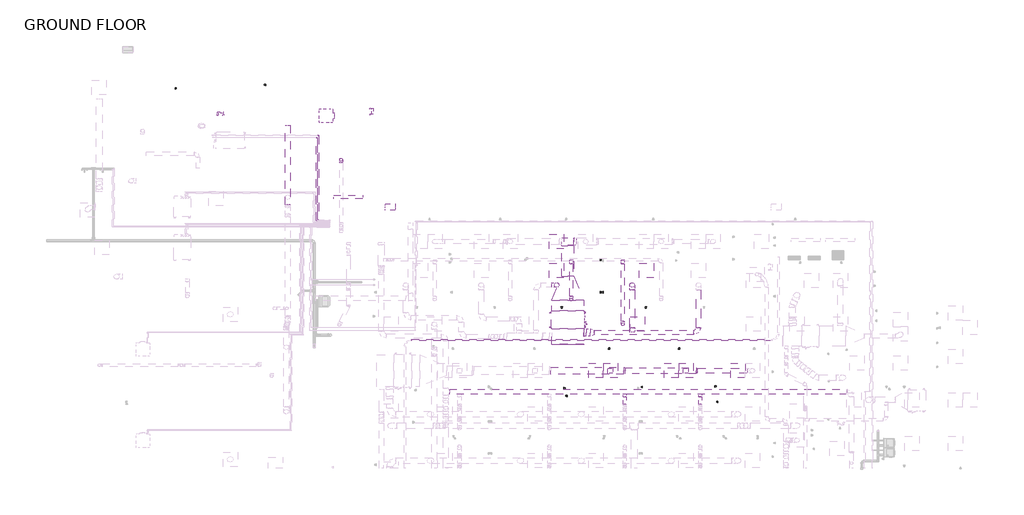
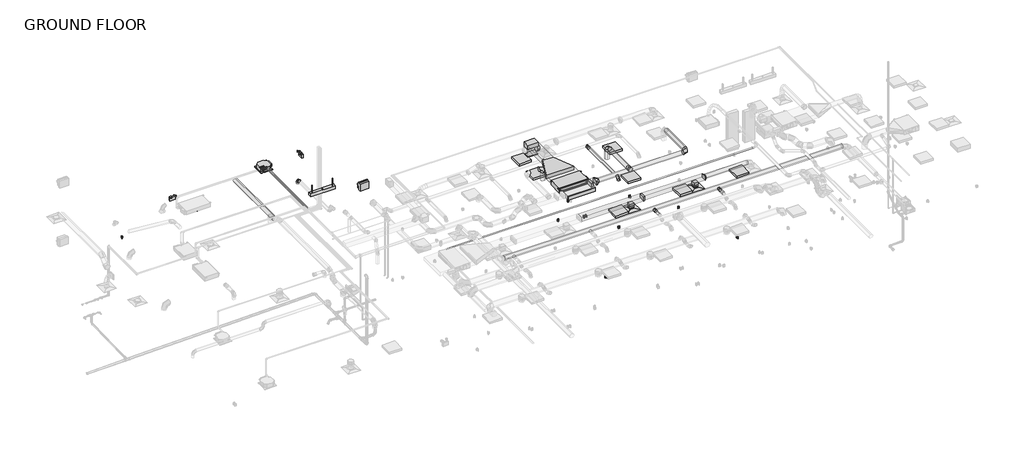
# One storey, part 18 of 22: 25 duct fittings, 24 duct segments, 11 light fixtures, 8 proxies, 4 electric appliances, 4 switching devices, 2 air terminals, 2 pipe fittings, 3 other elements.
"""IFC4 building model written with IfcOpenShell, lengths in millimetres."""

from ifc_helpers import new_model, si_unit, point, frame, frame_2d, origin, place, context, project, spatial, polyline, circle_curve, trimmed, segment, composite_curve, outline, extrude, transform, mapped, element, save
from components import air_terminal_e9020785, mechanical_equipment_d478180c, mechanical_equipment_2d84379e, duplex_receptacle_countertop_10251bba, rectangular_elbow_mitered_transition_standard_1af59134, rectangular_endcap_standard_3ad2bc23, rectangular_endcap_standard_fc39317d, rectangular_takeoff_standard_68f80ab3, rectangular_takeoff_standard_d07ea574, rectangular_transition_angle_45_degree_5314cfe0, rectangular_transition_angle_45_degree_4bc87dcf, rectangular_transition_angle_45_degree_1d311e81, rectangular_to_round_transition_angle_45_degree_8ccbb142, rectangular_to_round_transition_angle_45_degree_e9430680, rectangular_to_round_transition_angle_45_degree_5a025447, round_elbow_1_d_a253342a, round_elbow_1_d_c80420c1, round_takeoff_standard_272bb003, round_takeoff_standard_aff246af, round_takeoff_standard_5e8805d5, round_takeoff_standard_17dc06e3, telephone_outlet_data_plain_18c24199, emergency_wall_light_120v_37438f40, suspended_fluorescent_strip_non_hosted_strip_light_1x4_120v_5197bc21, troffer_corner_insert_2x2_3lamp_e67c7f8f, wall_pack_light_exterior_120v_ab60a804, elbow_generic_standard_738589b0, elbow_generic_standard_371413ad

model = new_model("IFC4")

# Units and contexts
model_context = context("Model", 3, world=origin())
ifc_project = project(units=[si_unit("LENGTHUNIT", "METRE", prefix="MILLI")], contexts=[model_context])

# Site, building, storey
site = spatial("IfcSite", under=ifc_project)
building = spatial("IfcBuilding", under=site)
storey = spatial("IfcBuildingStorey", under=building, Name="GROUND FLOOR", Elevation=30480.0)

# Air terminals
placement = place(None, origin())
air_terminal_shape = air_terminal_e9020785(model_context)
element("IfcAirTerminal", 1, ObjectType="Supply Diffuser - Rectangular Face Round Neck - Hosted : 24\"x24\" Face 8\" Neck - Hosted", at=placement, inside=storey, context=model_context, shape_type="MappedRepresentation", body=[
    mapped(air_terminal_shape, transform((2372.6795393, 1382.1195005, 33223.2), x_axis=(0.0, -1.0, 0.0), y_axis=(-1.0, 0.0, 0.0), z_axis=(0.0, 0.0, -1.0))),
])
element("IfcAirTerminal", 2, ObjectType="Supply Diffuser - Rectangular Face Round Neck - Hosted : 24\"x24\" Face 8\" Neck - Hosted", at=placement, inside=storey, context=model_context, shape_type="MappedRepresentation", body=[
    mapped(air_terminal_shape, transform((5544.5045393, 1382.1195005, 33223.2), x_axis=(0.0, -1.0, 0.0), y_axis=(-1.0, 0.0, 0.0), z_axis=(0.0, 0.0, -1.0))),
])

# Proxies
mechanical_equipment_shape = mechanical_equipment_d478180c(model_context)
element("IfcBuildingElementProxy", 3, Name="PEFY-P-NMAU-E_Medium_Static_Ducted : PEFY-P48NMAU-E", ObjectType="PEFY-P-NMAU-E_Medium_Static_Ducted : PEFY-P48NMAU-E", at=placement, inside=storey, context=model_context, shape_type="MappedRepresentation", body=[
    mapped(mechanical_equipment_shape, transform((586.0058148, 3462.779527, 33788.35), x_axis=(1.0, 0.0, 0.0), y_axis=(0.0, 1.0, 0.0), z_axis=(0.0, 0.0, 1.0))),
])
mechanical_equipment_2_shape = mechanical_equipment_2d84379e(model_context)
element("IfcBuildingElementProxy", 4, Name="PLFY-P-NCMU-E_4-way_24x24 : PLFY-P12NCMU-E", ObjectType="PLFY-P-NCMU-E_4-way_24x24 : PLFY-P12NCMU-E", at=placement, inside=storey, context=model_context, shape_type="MappedRepresentation", body=[
    mapped(mechanical_equipment_2_shape, transform((-9643.7370237, 12098.6958297, 33020.0), x_axis=(0.0, -1.0, 0.0), y_axis=(-1.0, 0.0, 0.0), z_axis=(0.0, 0.0, -1.0))),
])
duplex_receptacle_countertop_shape = duplex_receptacle_countertop_10251bba(model_context)
element("IfcBuildingElementProxy", 5, Name="Duplex Receptacle : Countertop", ObjectType="Duplex Receptacle : Countertop", at=placement, inside=storey, context=model_context, shape_type="MappedRepresentation", body=[
    mapped(duplex_receptacle_countertop_shape, transform((2067.8795393, 4677.7695005, 30937.2), x_axis=(0.0, 1.0, 0.0), y_axis=(0.0, 0.0, 1.0), z_axis=(1.0, 0.0, 0.0))),
])
element("IfcBuildingElementProxy", 6, Name="Duplex Receptacle : Countertop", ObjectType="Duplex Receptacle : Countertop", at=placement, inside=storey, context=model_context, shape_type="MappedRepresentation", body=[
    mapped(duplex_receptacle_countertop_shape, transform((1944.0545393, 4677.7695005, 30937.2), x_axis=(0.0, -1.0, 0.0), y_axis=(0.0, 0.0, 1.0), z_axis=(-1.0, 0.0, 0.0))),
])
element("IfcBuildingElementProxy", 7, Name="Duplex Receptacle : Standard", ObjectType="Duplex Receptacle : Standard", at=placement, inside=storey, context=model_context, shape_type="MappedRepresentation", body=[
    mapped(duplex_receptacle_countertop_shape, transform((6887.5295393, 71.4994744, 30937.2), x_axis=(0.0, 1.0, 0.0), y_axis=(0.0, 0.0, 1.0), z_axis=(1.0, 0.0, 0.0))),
])
element("IfcBuildingElementProxy", 8, Name="Duplex Receptacle : Standard", ObjectType="Duplex Receptacle : Standard", at=placement, inside=storey, context=model_context, shape_type="MappedRepresentation", body=[
    mapped(duplex_receptacle_countertop_shape, transform((6763.7045393, 721.6502033, 30937.2), x_axis=(0.0, -1.0, 0.0), y_axis=(0.0, 0.0, 1.0), z_axis=(-1.0, 0.0, 0.0))),
])
element("IfcBuildingElementProxy", 9, Name="Duplex Receptacle : Standard", ObjectType="Duplex Receptacle : Standard", at=placement, inside=storey, context=model_context, shape_type="MappedRepresentation", body=[
    mapped(duplex_receptacle_countertop_shape, transform((420.0545393, 644.5136762, 30937.2), x_axis=(0.0, -1.0, 0.0), y_axis=(0.0, 0.0, 1.0), z_axis=(-1.0, 0.0, 0.0))),
])
element("IfcBuildingElementProxy", 10, Name="Duplex Receptacle : Standard", ObjectType="Duplex Receptacle : Standard", at=placement, inside=storey, context=model_context, shape_type="MappedRepresentation", body=[
    mapped(duplex_receptacle_countertop_shape, transform((543.8795393, 322.3410962, 30937.2), x_axis=(0.0, 1.0, 0.0), y_axis=(0.0, 0.0, 1.0), z_axis=(1.0, 0.0, 0.0))),
])

# Cable carrier segment
element("IfcCableCarrierSegment", 11, ObjectType="Rigid Nonmetallic Conduit (RNC Sch 40)", at=placement, inside=storey, context=model_context, shape_type="SweptSolid", body=[
    extrude(outline(composite_curve([segment(trimmed(circle_curve(frame_2d((2674.7111662, 33223.2)), 30.1625), [point((2704.8736662, 33223.2))], [point((2674.7111662, 33193.0375))], False, "CARTESIAN"), True, "CONTINUOUS"), segment(trimmed(circle_curve(frame_2d((2674.7111662, 33223.2)), 30.1625), [point((2674.7111662, 33193.0375))], [point((2644.5486662, 33223.2))], False, "CARTESIAN"), True, "CONTINUOUS"), segment(trimmed(circle_curve(frame_2d((2674.7111662, 33223.2)), 30.1625), [point((2644.5486662, 33223.2))], [point((2674.7111662, 33253.3625))], False, "CARTESIAN"), True, "CONTINUOUS"), segment(trimmed(circle_curve(frame_2d((2674.7111662, 33223.2)), 30.1625), [point((2674.7111662, 33253.3625))], [point((2704.8736662, 33223.2))], False, "CARTESIAN"), True, "CONTINUOUS")], self_intersect=False)), frame((-5973.4970534, 0.0, 0.0), z_axis=(1.0, 0.0, 0.0), x_axis=(0.0, 1.0, 0.0)), (0.0, 0.0, 1.0), 15113.0),
])

# Duct fittings
rectangular_elbow_mitered_transition_standard_shape = rectangular_elbow_mitered_transition_standard_1af59134(model_context)
element("IfcDuctFitting", 12, ObjectType="Rectangular Elbow - Mitered - Transition : Standard", at=placement, inside=storey, context=model_context, shape_type="MappedRepresentation", body=[
    mapped(rectangular_elbow_mitered_transition_standard_shape, transform((575.9935718, 6811.3695005, 33934.4), x_axis=(0.0, 1.0, 0.0), y_axis=(0.0, 0.0, -1.0), z_axis=(-1.0, 0.0, 0.0))),
])
rectangular_endcap_standard_shape = rectangular_endcap_standard_3ad2bc23(model_context)
element("IfcDuctFitting", 13, ObjectType="Rectangular Endcap : Standard", at=placement, inside=storey, context=model_context, shape_type="MappedRepresentation", body=[
    mapped(rectangular_endcap_standard_shape, transform((575.9935718, 2491.3229089, 33947.89375), x_axis=(0.0, -1.0, 0.0), y_axis=(1.0, 0.0, 0.0), z_axis=(0.0, 0.0, 1.0))),
])
rectangular_endcap_standard_2_shape = rectangular_endcap_standard_fc39317d(model_context)
element("IfcDuctFitting", 14, ObjectType="Rectangular Endcap : Standard", at=placement, inside=storey, context=model_context, shape_type="MappedRepresentation", body=[
    mapped(rectangular_endcap_standard_2_shape, transform((575.9935718, 6811.3695005, 33426.4), x_axis=(0.0, 0.0, -1.0), y_axis=(1.0, 0.0, 0.0), z_axis=(0.0, -1.0, 0.0))),
])
rectangular_takeoff_standard_shape = rectangular_takeoff_standard_68f80ab3(model_context)
element("IfcDuctFitting", 15, ObjectType="Rectangular Takeoff : Standard", at=placement, inside=storey, context=model_context, shape_type="MappedRepresentation", body=[
    mapped(rectangular_takeoff_standard_shape, transform((1253.8560718, 2984.6075456, 33947.89375), x_axis=(1.0, 0.0, 0.0), y_axis=(0.0, -1.0, 0.0), z_axis=(0.0, 0.0, -1.0))),
])
rectangular_takeoff_standard_2_shape = rectangular_takeoff_standard_d07ea574(model_context)
element("IfcDuctFitting", 16, ObjectType="Rectangular Takeoff : Standard", at=placement, inside=storey, context=model_context, shape_type="MappedRepresentation", body=[
    mapped(rectangular_takeoff_standard_2_shape, transform((5544.5045393, 1382.1195005, 33502.6), x_axis=(0.0, 0.0, -1.0), y_axis=(1.0, 0.0, 0.0), z_axis=(0.0, -1.0, 0.0))),
])
element("IfcDuctFitting", 17, ObjectType="Rectangular Takeoff : Standard", at=placement, inside=storey, context=model_context, shape_type="MappedRepresentation", body=[
    mapped(rectangular_takeoff_standard_2_shape, transform((2372.6795393, 1382.1195005, 33502.6), x_axis=(0.0, 0.0, -1.0), y_axis=(1.0, 0.0, 0.0), z_axis=(0.0, -1.0, 0.0))),
])
rectangular_transition_angle_45_degree_shape = rectangular_transition_angle_45_degree_5314cfe0(model_context)
element("IfcDuctFitting", 18, ObjectType="Rectangular Transition - Angle : 45 Degree", at=placement, inside=storey, context=model_context, shape_type="MappedRepresentation", body=[
    mapped(rectangular_transition_angle_45_degree_shape, transform((575.9935718, 4334.7022191, 33934.4), x_axis=(0.0, 1.0, 0.0), y_axis=(-1.0, 0.0, 0.0), z_axis=(0.0, 0.0, 1.0))),
])
rectangular_transition_angle_45_degree_2_shape = rectangular_transition_angle_45_degree_4bc87dcf(model_context)
element("IfcDuctFitting", 19, ObjectType="Rectangular Transition - Angle : 45 Degree", at=placement, inside=storey, context=model_context, shape_type="MappedRepresentation", body=[
    mapped(rectangular_transition_angle_45_degree_2_shape, transform((575.9935718, 3891.404527, 33934.4), x_axis=(0.0, 1.0, 0.0), y_axis=(-1.0, 0.0, 0.0), z_axis=(0.0, 0.0, 1.0))),
])
rectangular_transition_angle_45_degree_3_shape = rectangular_transition_angle_45_degree_1d311e81(model_context)
element("IfcDuctFitting", 20, ObjectType="Rectangular Transition - Angle : 45 Degree", at=placement, inside=storey, context=model_context, shape_type="MappedRepresentation", body=[
    mapped(rectangular_transition_angle_45_degree_3_shape, transform((2934.6545393, 1382.1195005, 33604.2), x_axis=(1.0, 0.0, 0.0), y_axis=(0.0, 1.0, 0.0), z_axis=(0.0, 0.0, 1.0))),
])
rectangular_to_round_transition_angle_45_degree_shape = rectangular_to_round_transition_angle_45_degree_8ccbb142(model_context)
element("IfcDuctFitting", 21, ObjectType="Rectangular to Round Transition - Angle : 45 Degree", at=placement, inside=storey, context=model_context, shape_type="MappedRepresentation", body=[
    mapped(rectangular_to_round_transition_angle_45_degree_shape, transform((1530.4019781, 2984.6075456, 33947.89375), x_axis=(1.0, 0.0, 0.0), y_axis=(0.0, 1.0, 0.0), z_axis=(0.0, 0.0, 1.0))),
])
rectangular_to_round_transition_angle_45_degree_2_shape = rectangular_to_round_transition_angle_45_degree_e9430680(model_context)
element("IfcDuctFitting", 22, ObjectType="Rectangular to Round Transition - Angle : 45 Degree", at=placement, inside=storey, context=model_context, shape_type="MappedRepresentation", body=[
    mapped(rectangular_to_round_transition_angle_45_degree_2_shape, transform((5972.1335148, 1382.1195005, 33604.2), x_axis=(1.0, 0.0, 0.0), y_axis=(0.0, 1.0, 0.0), z_axis=(0.0, 0.0, 1.0))),
])
rectangular_to_round_transition_angle_45_degree_3_shape = rectangular_to_round_transition_angle_45_degree_5a025447(model_context)
element("IfcDuctFitting", 23, ObjectType="Rectangular to Round Transition - Angle : 45 Degree", at=placement, inside=storey, context=model_context, shape_type="MappedRepresentation", body=[
    mapped(rectangular_to_round_transition_angle_45_degree_3_shape, transform((5544.5045393, 1382.1195005, 33327.975), x_axis=(0.0, 0.0, -1.0), y_axis=(1.0, 0.0, 0.0), z_axis=(0.0, -1.0, 0.0))),
])
element("IfcDuctFitting", 24, ObjectType="Rectangular to Round Transition - Angle : 45 Degree", at=placement, inside=storey, context=model_context, shape_type="MappedRepresentation", body=[
    mapped(rectangular_to_round_transition_angle_45_degree_3_shape, transform((2372.6795393, 1382.1195005, 33327.975), x_axis=(0.0, 0.0, -1.0), y_axis=(1.0, 0.0, 0.0), z_axis=(0.0, -1.0, 0.0))),
])
round_elbow_1_d_shape = round_elbow_1_d_a253342a(model_context)
element("IfcDuctFitting", 25, ObjectType="Round Elbow : 1 D", at=placement, inside=storey, context=model_context, shape_type="MappedRepresentation", body=[
    mapped(round_elbow_1_d_shape, transform((115.2545393, 4982.5695005, 33947.89375), x_axis=(0.0, 0.0, 1.0), y_axis=(-1.0, 0.0, 0.0), z_axis=(0.0, -1.0, 0.0))),
])
element("IfcDuctFitting", 26, ObjectType="Round Elbow : 1 D", at=placement, inside=storey, context=model_context, shape_type="MappedRepresentation", body=[
    mapped(round_elbow_1_d_shape, transform((3287.0795393, 4982.5695005, 33947.89375), x_axis=(0.0, 0.0, 1.0), y_axis=(0.0, -1.0, 0.0), z_axis=(1.0, 0.0, 0.0))),
])
element("IfcDuctFitting", 27, ObjectType="Round Elbow : 1 D", at=placement, inside=storey, context=model_context, shape_type="MappedRepresentation", body=[
    mapped(round_elbow_1_d_shape, transform((6077.9045393, 2984.6075456, 33947.89375), x_axis=(1.0, 0.0, 0.0), y_axis=(0.0, 1.0, 0.0), z_axis=(0.0, 0.0, 1.0))),
])
round_elbow_1_d_2_shape = round_elbow_1_d_c80420c1(model_context)
element("IfcDuctFitting", 28, ObjectType="Round Elbow : 1 D", at=placement, inside=storey, context=model_context, shape_type="MappedRepresentation", body=[
    mapped(round_elbow_1_d_2_shape, transform((2896.5545393, 3334.7445005, 33464.5), x_axis=(0.0, -1.0, 0.0), y_axis=(0.0, 0.0, -1.0), z_axis=(1.0, 0.0, 0.0))),
])
element("IfcDuctFitting", 29, ObjectType="Round Elbow : 1 D", at=placement, inside=storey, context=model_context, shape_type="MappedRepresentation", body=[
    mapped(round_elbow_1_d_2_shape, transform((724.8545393, 4372.9695005, 33464.5), x_axis=(0.0, -1.0, 0.0), y_axis=(0.0, 0.0, -1.0), z_axis=(1.0, 0.0, 0.0))),
])
element("IfcDuctFitting", 30, ObjectType="Round Elbow : 1 D", at=placement, inside=storey, context=model_context, shape_type="MappedRepresentation", body=[
    mapped(round_elbow_1_d_2_shape, transform((-8950.9579607, 10246.7195005, 33324.8), x_axis=(0.0, 0.0, 1.0), y_axis=(0.0, -1.0, 0.0), z_axis=(1.0, 0.0, 0.0))),
])
round_takeoff_standard_shape = round_takeoff_standard_272bb003(model_context)
element("IfcDuctFitting", 31, ObjectType="Round Takeoff : Standard", at=placement, inside=storey, context=model_context, shape_type="MappedRepresentation", body=[
    mapped(round_takeoff_standard_shape, transform((2982.2795393, 391.7414929, 33528.0), x_axis=(0.0, -1.0, 0.0), y_axis=(-1.0, 0.0, 0.0), z_axis=(0.0, 0.0, -1.0))),
])
element("IfcDuctFitting", 32, ObjectType="Round Takeoff : Standard", at=placement, inside=storey, context=model_context, shape_type="MappedRepresentation", body=[
    mapped(round_takeoff_standard_shape, transform((6154.1045393, 391.7414929, 33528.0), x_axis=(0.0, -1.0, 0.0), y_axis=(-1.0, 0.0, 0.0), z_axis=(0.0, 0.0, -1.0))),
])
round_takeoff_standard_2_shape = round_takeoff_standard_aff246af(model_context)
element("IfcDuctFitting", 33, ObjectType="Round Takeoff : Standard", at=placement, inside=storey, context=model_context, shape_type="MappedRepresentation", body=[
    mapped(round_takeoff_standard_2_shape, transform((3287.0795393, 3086.2075456, 33947.89375), x_axis=(0.0, 1.0, 0.0), y_axis=(1.0, 0.0, 0.0), z_axis=(0.0, 0.0, -1.0))),
])
round_takeoff_standard_3_shape = round_takeoff_standard_5e8805d5(model_context)
element("IfcDuctFitting", 34, ObjectType="Round Takeoff : Standard", at=placement, inside=storey, context=model_context, shape_type="MappedRepresentation", body=[
    mapped(round_takeoff_standard_3_shape, transform((829.9935718, 6811.3695005, 33629.6), x_axis=(1.0, 0.0, 0.0), y_axis=(0.0, 0.0, 1.0), z_axis=(0.0, -1.0, 0.0))),
])
round_takeoff_standard_4_shape = round_takeoff_standard_17dc06e3(model_context)
element("IfcDuctFitting", 35, ObjectType="Round Takeoff : Standard", at=placement, inside=storey, context=model_context, shape_type="MappedRepresentation", body=[
    mapped(round_takeoff_standard_4_shape, transform((2896.5545393, 5985.8695005, 33464.5), x_axis=(0.0, -1.0, 0.0), y_axis=(-1.0, 0.0, 0.0), z_axis=(0.0, 0.0, -1.0))),
])
element("IfcDuctFitting", 36, ObjectType="Round Takeoff : Standard", at=placement, inside=storey, context=model_context, shape_type="MappedRepresentation", body=[
    mapped(round_takeoff_standard_4_shape, transform((724.8545393, 5985.8695005, 33464.5), x_axis=(0.0, -1.0, 0.0), y_axis=(-1.0, 0.0, 0.0), z_axis=(0.0, 0.0, -1.0))),
])

# Duct segments
element("IfcDuctSegment", 37, ObjectType="Mitered Elbows / Taps", at=placement, inside=storey, context=model_context, shape_type="SweptSolid", body=[
    extrude(outline(polyline([(-128.2244362, 1229.7195005), (-128.2244362, 1534.5195005), (2934.6545393, 1534.5195005), (2934.6545393, 1229.7195005), (-128.2244362, 1229.7195005)])), frame((0.0, 0.0, 33502.6), z_axis=(0.0, 0.0, 1.0), x_axis=(1.0, 0.0, 0.0)), (0.0, 0.0, 1.0), 203.2),
])
element("IfcDuctSegment", 38, ObjectType="Mitered Elbows / Taps", at=placement, inside=storey, context=model_context, shape_type="SweptSolid", body=[
    extrude(outline(polyline([(2995.9755638, 1255.1195005), (2995.9755638, 1509.1195005), (5972.1335148, 1509.1195005), (5972.1335148, 1255.1195005), (2995.9755638, 1255.1195005)])), frame((0.0, 0.0, 33502.6), z_axis=(0.0, 0.0, 1.0), x_axis=(1.0, 0.0, 0.0)), (0.0, 0.0, 1.0), 203.2),
])
element("IfcDuctSegment", 39, ObjectType="Mitered Elbows / Taps", at=placement, inside=storey, context=model_context, shape_type="SweptSolid", body=[
    extrude(outline(polyline([(5442.9045393, 1483.7195005), (5646.1045393, 1483.7195005), (5646.1045393, 1280.5195005), (5442.9045393, 1280.5195005), (5442.9045393, 1483.7195005)])), frame((0.0, 0.0, 33327.975), z_axis=(0.0, 0.0, 1.0), x_axis=(1.0, 0.0, 0.0)), (0.0, 0.0, 1.0), 73.025),
])
element("IfcDuctSegment", 40, ObjectType="Mitered Elbows / Taps", at=placement, inside=storey, context=model_context, shape_type="SweptSolid", body=[
    extrude(outline(polyline([(2271.0795393, 1483.7195005), (2474.2795393, 1483.7195005), (2474.2795393, 1280.5195005), (2271.0795393, 1280.5195005), (2271.0795393, 1483.7195005)])), frame((0.0, 0.0, 33327.975), z_axis=(0.0, 0.0, 1.0), x_axis=(1.0, 0.0, 0.0)), (0.0, 0.0, 1.0), 73.025),
])
element("IfcDuctSegment", 41, ObjectType="Mitered Elbows / Taps", at=placement, inside=storey, context=model_context, shape_type="SweptSolid", body=[
    extrude(outline(polyline([(829.9935718, 5346.4991231), (321.9935718, 5346.4991231), (321.9935718, 6633.5695005), (829.9935718, 6633.5695005), (829.9935718, 5346.4991231)])), frame((0.0, 0.0, 33832.8), z_axis=(0.0, 0.0, 1.0), x_axis=(1.0, 0.0, 0.0)), (0.0, 0.0, 1.0), 203.2),
])
element("IfcDuctSegment", 42, ObjectType="Mitered Elbows / Taps", at=placement, inside=storey, context=model_context, shape_type="SweptSolid", body=[
    extrude(outline(polyline([(829.9935718, 6963.7695005), (829.9935718, 6658.9695005), (321.9935718, 6658.9695005), (321.9935718, 6963.7695005), (829.9935718, 6963.7695005)])), frame((0.0, 0.0, 33426.4), z_axis=(0.0, 0.0, 1.0), x_axis=(1.0, 0.0, 0.0)), (0.0, 0.0, 1.0), 381.0),
])
element("IfcDuctSegment", 43, ObjectType="Mitered Elbows / Taps", at=placement, inside=storey, context=model_context, shape_type="SweptSolid", body=[
    extrude(outline(polyline([(1530.4019781, 3149.7075456), (1530.4019781, 2819.5075456), (1355.4560718, 2819.5075456), (1355.4560718, 3149.7075456), (1530.4019781, 3149.7075456)])), frame((0.0, 0.0, 33858.99375), z_axis=(0.0, 0.0, 1.0), x_axis=(1.0, 0.0, 0.0)), (0.0, 0.0, 1.0), 177.8),
])
element("IfcDuctSegment", 44, ObjectType="Mitered Elbows / Taps", at=placement, inside=storey, context=model_context, shape_type="SweptSolid", body=[
    extrude(outline(polyline([(1249.0935718, 3902.9022191), (-97.1064282, 3902.9022191), (-97.1064282, 4334.7022191), (1249.0935718, 4334.7022191), (1249.0935718, 3902.9022191)])), frame((0.0, 0.0, 33832.8), z_axis=(0.0, 0.0, 1.0), x_axis=(1.0, 0.0, 0.0)), (0.0, 0.0, 1.0), 203.2),
])
element("IfcDuctSegment", 45, ObjectType="Mitered Elbows / Tees", at=placement, inside=storey, context=model_context, shape_type="SweptSolid", body=[
    extrude(outline(polyline([(-101.8689282, 3145.279527), (1253.8560718, 3145.279527), (1253.8560718, 2491.3229089), (-101.8689282, 2491.3229089), (-101.8689282, 3145.279527)])), frame((0.0, 0.0, 33858.2), z_axis=(0.0, 0.0, 1.0), x_axis=(1.0, 0.0, 0.0)), (0.0, 0.0, 1.0), 179.3875),
])
element("IfcDuctSegment", 46, ObjectType="Taps / Short Radius", at=placement, inside=storey, context=model_context, shape_type="SweptSolid", body=[
    extrude(outline(composite_curve([segment(trimmed(circle_curve(frame_2d((33197.8, -11194.8892107)), 101.6), [point((33197.8, -11296.4892107))], [point((33096.2, -11194.8892107))], False, "CARTESIAN"), True, "CONTINUOUS"), segment(trimmed(circle_curve(frame_2d((33197.8, -11194.8892107)), 101.6), [point((33096.2, -11194.8892107))], [point((33197.8, -11093.2892107))], False, "CARTESIAN"), True, "CONTINUOUS"), segment(trimmed(circle_curve(frame_2d((33197.8, -11194.8892107)), 101.6), [point((33197.8, -11093.2892107))], [point((33299.4, -11194.8892107))], False, "CARTESIAN"), True, "CONTINUOUS"), segment(trimmed(circle_curve(frame_2d((33197.8, -11194.8892107)), 101.6), [point((33299.4, -11194.8892107))], [point((33197.8, -11296.4892107))], False, "CARTESIAN"), True, "CONTINUOUS")], self_intersect=False)), frame((0.0, 8356.2539246, 0.0), z_axis=(0.0, 1.0, 0.0), x_axis=(0.0, 0.0, 1.0)), (0.0, 0.0, 1.0), 3343.0588376),
])
element("IfcDuctSegment", 47, ObjectType="Taps / Short Radius", at=placement, inside=storey, context=model_context, shape_type="SweptSolid", body=[
    extrude(outline(composite_curve([segment(trimmed(circle_curve(frame_2d((1382.1195005, 33604.2)), 101.6), [point((1483.7195005, 33604.2))], [point((1382.1195005, 33502.6))], False, "CARTESIAN"), True, "CONTINUOUS"), segment(trimmed(circle_curve(frame_2d((1382.1195005, 33604.2)), 101.6), [point((1382.1195005, 33502.6))], [point((1280.5195005, 33604.2))], False, "CARTESIAN"), True, "CONTINUOUS"), segment(trimmed(circle_curve(frame_2d((1382.1195005, 33604.2)), 101.6), [point((1280.5195005, 33604.2))], [point((1382.1195005, 33705.8))], False, "CARTESIAN"), True, "CONTINUOUS"), segment(trimmed(circle_curve(frame_2d((1382.1195005, 33604.2)), 101.6), [point((1382.1195005, 33705.8))], [point((1483.7195005, 33604.2))], False, "CARTESIAN"), True, "CONTINUOUS")], self_intersect=False)), frame((6033.4545393, 0.0, 0.0), z_axis=(1.0, 0.0, 0.0), x_axis=(0.0, 1.0, 0.0)), (0.0, 0.0, 1.0), 2098.675),
])
element("IfcDuctSegment", 48, ObjectType="Taps / Short Radius", at=placement, inside=storey, context=model_context, shape_type="SweptSolid", body=[
    extrude(outline(composite_curve([segment(trimmed(circle_curve(frame_2d((115.2545393, 4982.5695005)), 101.6), [point((115.2545393, 5084.1695005))], [point((216.8545393, 4982.5695005))], False, "CARTESIAN"), True, "CONTINUOUS"), segment(trimmed(circle_curve(frame_2d((115.2545393, 4982.5695005)), 101.6), [point((216.8545393, 4982.5695005))], [point((115.2545393, 4880.9695005))], False, "CARTESIAN"), True, "CONTINUOUS"), segment(trimmed(circle_curve(frame_2d((115.2545393, 4982.5695005)), 101.6), [point((115.2545393, 4880.9695005))], [point((13.6545393, 4982.5695005))], False, "CARTESIAN"), True, "CONTINUOUS"), segment(trimmed(circle_curve(frame_2d((115.2545393, 4982.5695005)), 101.6), [point((13.6545393, 4982.5695005))], [point((115.2545393, 5084.1695005))], False, "CARTESIAN"), True, "CONTINUOUS")], self_intersect=False)), frame((0.0, 0.0, 33324.8), z_axis=(0.0, 0.0, 1.0), x_axis=(1.0, 0.0, 0.0)), (0.0, 0.0, 1.0), 419.89375),
])
element("IfcDuctSegment", 49, ObjectType="Taps / Short Radius", at=placement, inside=storey, context=model_context, shape_type="SweptSolid", body=[
    extrude(outline(composite_curve([segment(trimmed(circle_curve(frame_2d((2984.6075456, 33947.89375)), 101.6), [point((3086.2075456, 33947.89375))], [point((2984.6075456, 33846.29375))], False, "CARTESIAN"), True, "CONTINUOUS"), segment(trimmed(circle_curve(frame_2d((2984.6075456, 33947.89375)), 101.6), [point((2984.6075456, 33846.29375))], [point((2883.0075456, 33947.89375))], False, "CARTESIAN"), True, "CONTINUOUS"), segment(trimmed(circle_curve(frame_2d((2984.6075456, 33947.89375)), 101.6), [point((2883.0075456, 33947.89375))], [point((2984.6075456, 34049.49375))], False, "CARTESIAN"), True, "CONTINUOUS"), segment(trimmed(circle_curve(frame_2d((2984.6075456, 33947.89375)), 101.6), [point((2984.6075456, 34049.49375))], [point((3086.2075456, 33947.89375))], False, "CARTESIAN"), True, "CONTINUOUS")], self_intersect=False)), frame((1683.7045393, 0.0, 0.0), z_axis=(1.0, 0.0, 0.0), x_axis=(0.0, 1.0, 0.0)), (0.0, 0.0, 1.0), 4191.0),
])
element("IfcDuctSegment", 50, ObjectType="Taps / Short Radius", at=placement, inside=storey, context=model_context, shape_type="SweptSolid", body=[
    extrude(outline(composite_curve([segment(trimmed(circle_curve(frame_2d((33947.89375, 6077.9045393)), 101.6), [point((33947.89375, 5976.3045393))], [point((33846.29375, 6077.9045393))], False, "CARTESIAN"), True, "CONTINUOUS"), segment(trimmed(circle_curve(frame_2d((33947.89375, 6077.9045393)), 101.6), [point((33846.29375, 6077.9045393))], [point((33947.89375, 6179.5045393))], False, "CARTESIAN"), True, "CONTINUOUS"), segment(trimmed(circle_curve(frame_2d((33947.89375, 6077.9045393)), 101.6), [point((33947.89375, 6179.5045393))], [point((34049.49375, 6077.9045393))], False, "CARTESIAN"), True, "CONTINUOUS"), segment(trimmed(circle_curve(frame_2d((33947.89375, 6077.9045393)), 101.6), [point((34049.49375, 6077.9045393))], [point((33947.89375, 5976.3045393))], False, "CARTESIAN"), True, "CONTINUOUS")], self_intersect=False)), frame((0.0, 3187.8075456, 0.0), z_axis=(0.0, 1.0, 0.0), x_axis=(0.0, 0.0, 1.0)), (0.0, 0.0, 1.0), 1591.5619549),
])
element("IfcDuctSegment", 51, ObjectType="Taps / Short Radius", at=placement, inside=storey, context=model_context, shape_type="SweptSolid", body=[
    extrude(outline(composite_curve([segment(trimmed(circle_curve(frame_2d((33947.89375, 3287.0795393)), 101.6), [point((33947.89375, 3185.4795393))], [point((33846.29375, 3287.0795393))], False, "CARTESIAN"), True, "CONTINUOUS"), segment(trimmed(circle_curve(frame_2d((33947.89375, 3287.0795393)), 101.6), [point((33846.29375, 3287.0795393))], [point((33947.89375, 3388.6795393))], False, "CARTESIAN"), True, "CONTINUOUS"), segment(trimmed(circle_curve(frame_2d((33947.89375, 3287.0795393)), 101.6), [point((33947.89375, 3388.6795393))], [point((34049.49375, 3287.0795393))], False, "CARTESIAN"), True, "CONTINUOUS"), segment(trimmed(circle_curve(frame_2d((33947.89375, 3287.0795393)), 101.6), [point((34049.49375, 3287.0795393))], [point((33947.89375, 3185.4795393))], False, "CARTESIAN"), True, "CONTINUOUS")], self_intersect=False)), frame((0.0, 3187.8075456, 0.0), z_axis=(0.0, 1.0, 0.0), x_axis=(0.0, 0.0, 1.0)), (0.0, 0.0, 1.0), 1591.5619549),
])
element("IfcDuctSegment", 52, ObjectType="Taps / Short Radius", at=placement, inside=storey, context=model_context, shape_type="SweptSolid", body=[
    extrude(outline(composite_curve([segment(trimmed(circle_curve(frame_2d((3287.0795393, 4982.5695005)), 101.6), [point((3185.4795393, 4982.5695005))], [point((3287.0795393, 5084.1695005))], False, "CARTESIAN"), True, "CONTINUOUS"), segment(trimmed(circle_curve(frame_2d((3287.0795393, 4982.5695005)), 101.6), [point((3287.0795393, 5084.1695005))], [point((3388.6795393, 4982.5695005))], False, "CARTESIAN"), True, "CONTINUOUS"), segment(trimmed(circle_curve(frame_2d((3287.0795393, 4982.5695005)), 101.6), [point((3388.6795393, 4982.5695005))], [point((3287.0795393, 4880.9695005))], False, "CARTESIAN"), True, "CONTINUOUS"), segment(trimmed(circle_curve(frame_2d((3287.0795393, 4982.5695005)), 101.6), [point((3287.0795393, 4880.9695005))], [point((3185.4795393, 4982.5695005))], False, "CARTESIAN"), True, "CONTINUOUS")], self_intersect=False)), frame((0.0, 0.0, 33324.8), z_axis=(0.0, 0.0, 1.0), x_axis=(1.0, 0.0, 0.0)), (0.0, 0.0, 1.0), 419.89375),
])
element("IfcDuctSegment", 53, ObjectType="Taps / Short Radius", at=placement, inside=storey, context=model_context, shape_type="SweptSolid", body=[
    extrude(outline(composite_curve([segment(trimmed(circle_curve(frame_2d((0.0, 63.5)), 63.5), [point((-63.5, 63.5))], [point((0.0, 127.0))], False, "CARTESIAN"), True, "CONTINUOUS"), segment(trimmed(circle_curve(frame_2d((0.0, 63.5)), 63.5), [point((0.0, 127.0))], [point((63.5, 63.5))], False, "CARTESIAN"), True, "CONTINUOUS"), segment(trimmed(circle_curve(frame_2d((0.0, 63.5)), 63.5), [point((63.5, 63.5))], [point((0.0, 0.0))], False, "CARTESIAN"), True, "CONTINUOUS"), segment(trimmed(circle_curve(frame_2d((0.0, 63.5)), 63.5), [point((0.0, 0.0))], [point((-63.5, 63.5))], False, "CARTESIAN"), True, "CONTINUOUS")], self_intersect=False)), frame((2896.5545393, 3271.2445005, 33324.8), z_axis=(0.0, -1.0231815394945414e-12, 1.0), x_axis=(1.0, 0.0, 0.0)), (0.0, 0.0, 1.0), 12.7),
])
element("IfcDuctSegment", 54, ObjectType="Taps / Short Radius", at=placement, inside=storey, context=model_context, shape_type="SweptSolid", body=[
    extrude(outline(composite_curve([segment(trimmed(circle_curve(frame_2d((33464.5, 2896.5545393)), 63.5), [point((33464.5, 2833.0545393))], [point((33401.0, 2896.5545393))], False, "CARTESIAN"), True, "CONTINUOUS"), segment(trimmed(circle_curve(frame_2d((33464.5, 2896.5545393)), 63.5), [point((33401.0, 2896.5545393))], [point((33464.5, 2960.0545393))], False, "CARTESIAN"), True, "CONTINUOUS"), segment(trimmed(circle_curve(frame_2d((33464.5, 2896.5545393)), 63.5), [point((33464.5, 2960.0545393))], [point((33528.0, 2896.5545393))], False, "CARTESIAN"), True, "CONTINUOUS"), segment(trimmed(circle_curve(frame_2d((33464.5, 2896.5545393)), 63.5), [point((33528.0, 2896.5545393))], [point((33464.5, 2833.0545393))], False, "CARTESIAN"), True, "CONTINUOUS")], self_intersect=False)), frame((0.0, 3461.7445005, 0.0), z_axis=(0.0, 1.0, 0.0), x_axis=(0.0, 0.0, 1.0)), (0.0, 0.0, 1.0), 2422.525),
])
element("IfcDuctSegment", 55, ObjectType="Taps / Short Radius", at=placement, inside=storey, context=model_context, shape_type="SweptSolid", body=[
    extrude(outline(composite_curve([segment(trimmed(circle_curve(frame_2d((0.0, 63.5)), 63.5), [point((-63.5, 63.5))], [point((0.0, 127.0))], False, "CARTESIAN"), True, "CONTINUOUS"), segment(trimmed(circle_curve(frame_2d((0.0, 63.5)), 63.5), [point((0.0, 127.0))], [point((63.5, 63.5))], False, "CARTESIAN"), True, "CONTINUOUS"), segment(trimmed(circle_curve(frame_2d((0.0, 63.5)), 63.5), [point((63.5, 63.5))], [point((0.0, 0.0))], False, "CARTESIAN"), True, "CONTINUOUS"), segment(trimmed(circle_curve(frame_2d((0.0, 63.5)), 63.5), [point((0.0, 0.0))], [point((-63.5, 63.5))], False, "CARTESIAN"), True, "CONTINUOUS")], self_intersect=False)), frame((724.8545393, 4309.4695005, 33324.8), z_axis=(0.0, -1.0231815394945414e-12, 1.0), x_axis=(1.0, 0.0, 0.0)), (0.0, 0.0, 1.0), 12.7),
])
element("IfcDuctSegment", 56, ObjectType="Taps / Short Radius", at=placement, inside=storey, context=model_context, shape_type="SweptSolid", body=[
    extrude(outline(composite_curve([segment(trimmed(circle_curve(frame_2d((33464.5, 724.8545393)), 63.5), [point((33464.5, 661.3545393))], [point((33401.0, 724.8545393))], False, "CARTESIAN"), True, "CONTINUOUS"), segment(trimmed(circle_curve(frame_2d((33464.5, 724.8545393)), 63.5), [point((33401.0, 724.8545393))], [point((33464.5, 788.3545393))], False, "CARTESIAN"), True, "CONTINUOUS"), segment(trimmed(circle_curve(frame_2d((33464.5, 724.8545393)), 63.5), [point((33464.5, 788.3545393))], [point((33528.0, 724.8545393))], False, "CARTESIAN"), True, "CONTINUOUS"), segment(trimmed(circle_curve(frame_2d((33464.5, 724.8545393)), 63.5), [point((33528.0, 724.8545393))], [point((33464.5, 661.3545393))], False, "CARTESIAN"), True, "CONTINUOUS")], self_intersect=False)), frame((0.0, 4499.9695005, 0.0), z_axis=(0.0, 1.0, 0.0), x_axis=(0.0, 0.0, 1.0)), (0.0, 0.0, 1.0), 1384.3),
])
element("IfcDuctSegment", 57, ObjectType="Taps / Short Radius", at=placement, inside=storey, context=model_context, shape_type="SweptSolid", body=[
    extrude(outline(composite_curve([segment(trimmed(circle_curve(frame_2d((-8950.9579607, 10246.7195005)), 63.5), [point((-9014.4579607, 10246.7195005))], [point((-8950.9579607, 10310.2195005))], False, "CARTESIAN"), True, "CONTINUOUS"), segment(trimmed(circle_curve(frame_2d((-8950.9579607, 10246.7195005)), 63.5), [point((-8950.9579607, 10310.2195005))], [point((-8887.4579607, 10246.7195005))], False, "CARTESIAN"), True, "CONTINUOUS"), segment(trimmed(circle_curve(frame_2d((-8950.9579607, 10246.7195005)), 63.5), [point((-8887.4579607, 10246.7195005))], [point((-8950.9579607, 10183.2195005))], False, "CARTESIAN"), True, "CONTINUOUS"), segment(trimmed(circle_curve(frame_2d((-8950.9579607, 10246.7195005)), 63.5), [point((-8950.9579607, 10183.2195005))], [point((-9014.4579607, 10246.7195005))], False, "CARTESIAN"), True, "CONTINUOUS")], self_intersect=False)), frame((0.0, 0.0, 33121.6), z_axis=(0.0, 0.0, 1.0), x_axis=(1.0, 0.0, 0.0)), (0.0, 0.0, 1.0), 76.2),
])
element("IfcDuctSegment", 58, ObjectType="Taps / Short Radius", at=placement, inside=storey, context=model_context, shape_type="SweptSolid", body=[
    extrude(outline(composite_curve([segment(trimmed(circle_curve(frame_2d((493.3414929, 33528.0)), 101.6), [point((594.9414929, 33528.0))], [point((493.3414929, 33426.4))], False, "CARTESIAN"), True, "CONTINUOUS"), segment(trimmed(circle_curve(frame_2d((493.3414929, 33528.0)), 101.6), [point((493.3414929, 33426.4))], [point((391.7414929, 33528.0))], False, "CARTESIAN"), True, "CONTINUOUS"), segment(trimmed(circle_curve(frame_2d((493.3414929, 33528.0)), 101.6), [point((391.7414929, 33528.0))], [point((493.3414929, 33629.6))], False, "CARTESIAN"), True, "CONTINUOUS"), segment(trimmed(circle_curve(frame_2d((493.3414929, 33528.0)), 101.6), [point((493.3414929, 33629.6))], [point((594.9414929, 33528.0))], False, "CARTESIAN"), True, "CONTINUOUS")], self_intersect=False)), frame((-4389.576464, 0.0, 0.0), z_axis=(1.0, 0.0, 0.0), x_axis=(0.0, 1.0, 0.0)), (0.0, 0.0, 1.0), 16693.6560033),
])
element("IfcDuctSegment", 59, ObjectType="Taps / Short Radius", at=placement, inside=storey, context=model_context, shape_type="SweptSolid", body=[
    extrude(outline(composite_curve([segment(trimmed(circle_curve(frame_2d((33528.0, 2982.2795393)), 63.5), [point((33528.0, 3045.7795393))], [point((33591.5, 2982.2795393))], False, "CARTESIAN"), True, "CONTINUOUS"), segment(trimmed(circle_curve(frame_2d((33528.0, 2982.2795393)), 63.5), [point((33591.5, 2982.2795393))], [point((33528.0, 2918.7795393))], False, "CARTESIAN"), True, "CONTINUOUS"), segment(trimmed(circle_curve(frame_2d((33528.0, 2982.2795393)), 63.5), [point((33528.0, 2918.7795393))], [point((33464.5, 2982.2795393))], False, "CARTESIAN"), True, "CONTINUOUS"), segment(trimmed(circle_curve(frame_2d((33528.0, 2982.2795393)), 63.5), [point((33464.5, 2982.2795393))], [point((33528.0, 3045.7795393))], False, "CARTESIAN"), True, "CONTINUOUS")], self_intersect=False)), frame((0.0, -23.6803249, 0.0), z_axis=(0.0, 1.0, 0.0), x_axis=(0.0, 0.0, 1.0)), (0.0, 0.0, 1.0), 313.8218179),
])
element("IfcDuctSegment", 60, ObjectType="Taps / Short Radius", at=placement, inside=storey, context=model_context, shape_type="SweptSolid", body=[
    extrude(outline(composite_curve([segment(trimmed(circle_curve(frame_2d((33528.0, 6154.1045393)), 63.5), [point((33528.0, 6217.6045393))], [point((33591.5, 6154.1045393))], False, "CARTESIAN"), True, "CONTINUOUS"), segment(trimmed(circle_curve(frame_2d((33528.0, 6154.1045393)), 63.5), [point((33591.5, 6154.1045393))], [point((33528.0, 6090.6045393))], False, "CARTESIAN"), True, "CONTINUOUS"), segment(trimmed(circle_curve(frame_2d((33528.0, 6154.1045393)), 63.5), [point((33528.0, 6090.6045393))], [point((33464.5, 6154.1045393))], False, "CARTESIAN"), True, "CONTINUOUS"), segment(trimmed(circle_curve(frame_2d((33528.0, 6154.1045393)), 63.5), [point((33464.5, 6154.1045393))], [point((33528.0, 6217.6045393))], False, "CARTESIAN"), True, "CONTINUOUS")], self_intersect=False)), frame((0.0, -23.6803249, 0.0), z_axis=(0.0, 1.0, 0.0), x_axis=(0.0, 0.0, 1.0)), (0.0, 0.0, 1.0), 313.8218179),
])

# Electric appliances
telephone_outlet_data_plain_shape = telephone_outlet_data_plain_18c24199(model_context)
element("IfcElectricAppliance", 61, ObjectType="Telephone Outlet - Data : Plain", at=placement, inside=storey, context=model_context, shape_type="MappedRepresentation", body=[
    mapped(telephone_outlet_data_plain_shape, transform((1944.0545393, 5160.6139987, 30079.95), x_axis=(0.0, -1.0, 0.0), y_axis=(0.0, 0.0, 1.0), z_axis=(-1.0, 0.0, 0.0))),
])
element("IfcElectricAppliance", 62, ObjectType="Telephone Outlet - Data : Plain", at=placement, inside=storey, context=model_context, shape_type="MappedRepresentation", body=[
    mapped(telephone_outlet_data_plain_shape, transform((3715.7045393, 1574.1655414, 30079.95), x_axis=(0.0, 1.0, 0.0), y_axis=(0.0, 0.0, 1.0), z_axis=(1.0, 0.0, 0.0))),
])
element("IfcElectricAppliance", 63, ObjectType="Telephone Outlet - Data : Plain", at=placement, inside=storey, context=model_context, shape_type="MappedRepresentation", body=[
    mapped(telephone_outlet_data_plain_shape, transform((-12118.0204607, 14274.5107481, 30079.95), x_axis=(0.0, 1.0, 0.0), y_axis=(0.0, 0.0, 1.0), z_axis=(1.0, 0.0, 0.0))),
])
element("IfcElectricAppliance", 64, ObjectType="Telephone Outlet - Data : Plain", at=placement, inside=storey, context=model_context, shape_type="MappedRepresentation", body=[
    mapped(telephone_outlet_data_plain_shape, transform((-15921.6704607, 12368.1938734, 30079.95), x_axis=(0.0, -1.0, 0.0), y_axis=(0.0, 0.0, 1.0), z_axis=(-1.0, 0.0, 0.0))),
])

# Light fixtures
emergency_wall_light_120v_shape = emergency_wall_light_120v_37438f40(model_context)
element("IfcLightFixture", 65, ObjectType="Emergency Wall Light : 120V", at=placement, inside=storey, context=model_context, shape_type="MappedRepresentation", body=[
    mapped(emergency_wall_light_120v_shape, transform((-14019.8454607, 12256.4945005, 32918.4), x_axis=(1.0, 0.0, 0.0), y_axis=(0.0, 0.0, 1.0), z_axis=(0.0, -1.0, 0.0))),
])
element("IfcLightFixture", 66, ObjectType="Emergency Wall Light : 120V", at=placement, inside=storey, context=model_context, shape_type="MappedRepresentation", body=[
    mapped(emergency_wall_light_120v_shape, transform((-7593.6454607, 12277.5394735, 32918.4), x_axis=(0.0, -1.0, 0.0), y_axis=(0.0, 0.0, 1.0), z_axis=(-1.0, 0.0, 0.0))),
])
suspended_fluorescent_strip_non_hosted_strip_light_1x4_120v_shape = suspended_fluorescent_strip_non_hosted_strip_light_1x4_120v_5197bc21(model_context)
element("IfcLightFixture", 67, ObjectType="Suspended Fluorescent Strip - Non-Hosted : Strip Light 1x4 - 120V Normal", at=placement, inside=storey, context=model_context, shape_type="MappedRepresentation", body=[
    mapped(suspended_fluorescent_strip_non_hosted_strip_light_1x4_120v_shape, transform((-8654.6826756, 8675.0945005, 33528.0), x_axis=(1.0, 0.0, 0.0), y_axis=(0.0, 1.0, 0.0), z_axis=(0.0, 0.0, 1.0))),
])
troffer_corner_insert_2x2_3lamp_shape = troffer_corner_insert_2x2_3lamp_e67c7f8f(model_context)
element("IfcLightFixture", 68, ObjectType="Troffer Corner Insert : 2x2 3Lamp", at=placement, inside=storey, context=model_context, shape_type="MappedRepresentation", body=[
    mapped(troffer_corner_insert_2x2_3lamp_shape, transform((115.2545393, 6811.3695005, 30784.8), x_axis=(1.0, 0.0, 0.0), y_axis=(0.0, 1.0, 0.0), z_axis=(0.0, 0.0, 1.0))),
])
element("IfcLightFixture", 69, ObjectType="Troffer Corner Insert : 2x2 3Lamp", at=placement, inside=storey, context=model_context, shape_type="MappedRepresentation", body=[
    mapped(troffer_corner_insert_2x2_3lamp_shape, transform((115.2545393, 5592.1695005, 30784.8), x_axis=(1.0, 0.0, 0.0), y_axis=(0.0, 1.0, 0.0), z_axis=(0.0, 0.0, 1.0))),
])
element("IfcLightFixture", 70, ObjectType="Troffer Corner Insert : 2x2 3Lamp", at=placement, inside=storey, context=model_context, shape_type="MappedRepresentation", body=[
    mapped(troffer_corner_insert_2x2_3lamp_shape, transform((3896.6795393, 5592.1695005, 30784.8), x_axis=(1.0, 0.0, 0.0), y_axis=(0.0, 1.0, 0.0), z_axis=(0.0, 0.0, 1.0))),
])
element("IfcLightFixture", 71, ObjectType="Troffer Corner Insert : 2x2 3Lamp", at=placement, inside=storey, context=model_context, shape_type="MappedRepresentation", body=[
    mapped(troffer_corner_insert_2x2_3lamp_shape, transform((3506.1545393, 3334.7445005, 30784.8), x_axis=(1.0, 0.0, 0.0), y_axis=(0.0, 1.0, 0.0), z_axis=(0.0, 0.0, 1.0))),
])
element("IfcLightFixture", 72, ObjectType="Troffer Corner Insert : 2x2 3Lamp", at=placement, inside=storey, context=model_context, shape_type="MappedRepresentation", body=[
    mapped(troffer_corner_insert_2x2_3lamp_shape, transform((1763.0795393, 1382.1195005, 30784.8), x_axis=(1.0, 0.0, 0.0), y_axis=(0.0, 1.0, 0.0), z_axis=(0.0, 0.0, 1.0))),
])
element("IfcLightFixture", 73, ObjectType="Troffer Corner Insert : 2x2 3Lamp", at=placement, inside=storey, context=model_context, shape_type="MappedRepresentation", body=[
    mapped(troffer_corner_insert_2x2_3lamp_shape, transform((4934.9045393, 1382.1195005, 30784.8), x_axis=(1.0, 0.0, 0.0), y_axis=(0.0, 1.0, 0.0), z_axis=(0.0, 0.0, 1.0))),
])
element("IfcLightFixture", 74, ObjectType="Troffer Corner Insert : 2x2 3Lamp", at=placement, inside=storey, context=model_context, shape_type="MappedRepresentation", body=[
    mapped(troffer_corner_insert_2x2_3lamp_shape, transform((7725.7295393, 1382.1195005, 30784.8), x_axis=(1.0, 0.0, 0.0), y_axis=(0.0, 1.0, 0.0), z_axis=(0.0, 0.0, 1.0))),
])
wall_pack_light_exterior_120v_shape = wall_pack_light_exterior_120v_ab60a804(model_context)
element("IfcLightFixture", 75, ObjectType="Wall Pack Light - Exterior : 120V", at=placement, inside=storey, context=model_context, shape_type="MappedRepresentation", body=[
    mapped(wall_pack_light_exterior_120v_shape, transform((-6878.5788552, 8132.1695005, 33528.0), x_axis=(-1.0, 0.0, 0.0), y_axis=(0.0, 0.0, 1.0), z_axis=(0.0, 1.0, 0.0))),
])

# Pipe fittings
elbow_generic_standard_shape = elbow_generic_standard_738589b0(model_context)
element("IfcPipeFitting", 76, ObjectType="Elbow - Generic : Standard", at=placement, inside=storey, context=model_context, shape_type="MappedRepresentation", body=[
    mapped(elbow_generic_standard_shape, transform((-9971.0694154, 11191.5268827, 33680.4), x_axis=(0.0, 1.0, 0.0), y_axis=(-1.0, 0.0, 0.0), z_axis=(0.0, 0.0, 1.0))),
])
elbow_generic_standard_2_shape = elbow_generic_standard_371413ad(model_context)
element("IfcPipeFitting", 77, ObjectType="Elbow - Generic : Standard", at=placement, inside=storey, context=model_context, shape_type="MappedRepresentation", body=[
    mapped(elbow_generic_standard_2_shape, transform((-9902.105773, 11274.7212423, 33680.4), x_axis=(0.0, 1.0, 0.0), y_axis=(-0.9999999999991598, 0.0, -1.2963089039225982e-06), z_axis=(-1.2963089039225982e-06, 0.0, 0.9999999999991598))),
])

# Pipe segments
element("IfcPipeSegment", 78, ObjectType="Copper Tubing", at=placement, inside=storey, context=model_context, shape_type="SweptSolid", body=[
    extrude(outline(composite_curve([segment(trimmed(circle_curve(frame_2d((33680.4, -9902.105773)), 20.6375), [point((33680.4, -9922.743273))], [point((33659.7625, -9902.105773))], False, "CARTESIAN"), True, "CONTINUOUS"), segment(trimmed(circle_curve(frame_2d((33680.4, -9902.105773)), 20.6375), [point((33659.7625, -9902.105773))], [point((33680.4, -9881.468273))], False, "CARTESIAN"), True, "CONTINUOUS"), segment(trimmed(circle_curve(frame_2d((33680.4, -9902.105773)), 20.6375), [point((33680.4, -9881.468273))], [point((33701.0375, -9902.105773))], False, "CARTESIAN"), True, "CONTINUOUS"), segment(trimmed(circle_curve(frame_2d((33680.4, -9902.105773)), 20.6375), [point((33701.0375, -9902.105773))], [point((33680.4, -9922.743273))], False, "CARTESIAN"), True, "CONTINUOUS")], self_intersect=False)), frame((0.0, 7730.4790784, 0.0), z_axis=(0.0, 1.0, 0.0), x_axis=(0.0, 0.0, 1.0)), (0.0, 0.0, 1.0), 3517.2546639),
])
element("IfcPipeSegment", 79, ObjectType="Copper Tubing", at=placement, inside=storey, context=model_context, shape_type="SweptSolid", body=[
    extrude(outline(composite_curve([segment(trimmed(circle_curve(frame_2d((33680.4, -9971.0694154)), 11.1125), [point((33680.4, -9982.1819154))], [point((33669.2875, -9971.0694154))], False, "CARTESIAN"), True, "CONTINUOUS"), segment(trimmed(circle_curve(frame_2d((33680.4, -9971.0694154)), 11.1125), [point((33669.2875, -9971.0694154))], [point((33680.4, -9959.9569154))], False, "CARTESIAN"), True, "CONTINUOUS"), segment(trimmed(circle_curve(frame_2d((33680.4, -9971.0694154)), 11.1125), [point((33680.4, -9959.9569154))], [point((33691.5125, -9971.0694154))], False, "CARTESIAN"), True, "CONTINUOUS"), segment(trimmed(circle_curve(frame_2d((33680.4, -9971.0694154)), 11.1125), [point((33691.5125, -9971.0694154))], [point((33680.4, -9982.1819154))], False, "CARTESIAN"), True, "CONTINUOUS")], self_intersect=False)), frame((0.0, 7684.0947539, 0.0), z_axis=(0.0, 1.0, 0.0), x_axis=(0.0, 0.0, 1.0)), (0.0, 0.0, 1.0), 3489.9696289),
])

# Switching devices
element("IfcSwitchingDevice", 80, ObjectType="Lighting Switches - Occupancy Sensor : Occupancy Sensor", at=placement, inside=storey, context=model_context, shape_type="MappedRepresentation", body=[
    mapped(duplex_receptacle_countertop_shape, transform((2316.5516148, 2296.5195005, 31699.2), x_axis=(1.0, 0.0, 0.0), y_axis=(0.0, 0.0, 1.0), z_axis=(0.0, -1.0, 0.0))),
])
element("IfcSwitchingDevice", 81, ObjectType="Lighting Switches - Occupancy Sensor : Occupancy Sensor", at=placement, inside=storey, context=model_context, shape_type="MappedRepresentation", body=[
    mapped(duplex_receptacle_countertop_shape, transform((5258.8220774, 2296.5195005, 31699.2), x_axis=(1.0, 0.0, 0.0), y_axis=(0.0, 0.0, 1.0), z_axis=(0.0, -1.0, 0.0))),
])
element("IfcSwitchingDevice", 82, ObjectType="Lighting Switches - Occupancy Sensor : Occupancy Sensor", at=placement, inside=storey, context=model_context, shape_type="MappedRepresentation", body=[
    mapped(duplex_receptacle_countertop_shape, transform((3862.3469576, 4068.1695005, 31699.2), x_axis=(-1.0, 0.0, 0.0), y_axis=(0.0, 0.0, 1.0), z_axis=(0.0, 1.0, 0.0))),
])
element("IfcSwitchingDevice", 83, ObjectType="Lighting Switches - Occupancy Sensor : Occupancy Sensor", at=placement, inside=storey, context=model_context, shape_type="MappedRepresentation", body=[
    mapped(duplex_receptacle_countertop_shape, transform((325.086212, 4068.1695005, 31699.2), x_axis=(-1.0, 0.0, 0.0), y_axis=(0.0, 0.0, 1.0), z_axis=(0.0, 1.0, 0.0))),
])

save(model, "model.ifc")
